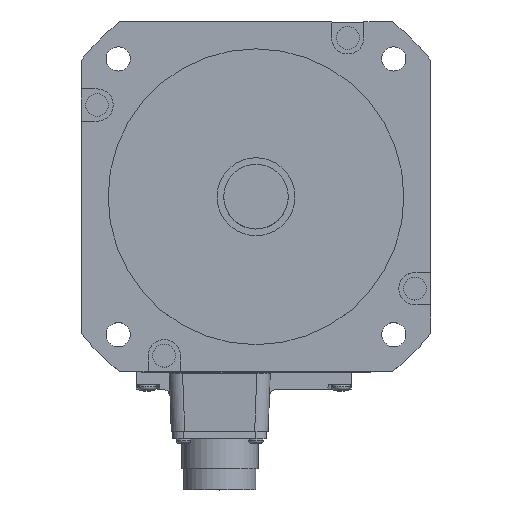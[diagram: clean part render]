
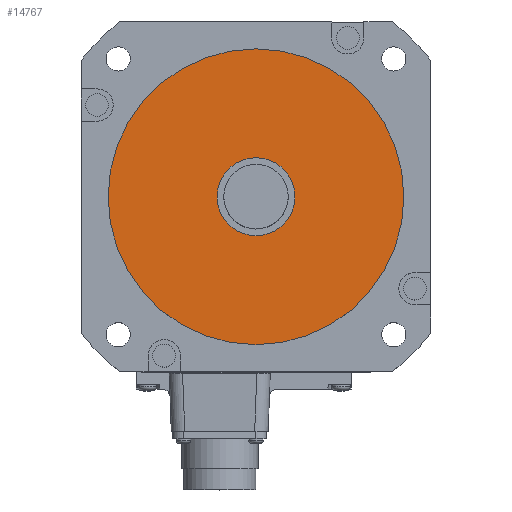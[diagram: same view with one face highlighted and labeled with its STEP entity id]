
A CAD part, top view. The second image highlights one B-rep face of the part: STEP entity #14767.
In plain terms, the highlighted planar face has unit normal (0, 0, 1).
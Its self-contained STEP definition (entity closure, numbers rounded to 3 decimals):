
#5271=CARTESIAN_POINT('',(0.,0.,3.));
#5272=DIRECTION('',(0.,0.,-1.));
#5273=DIRECTION('',(1.,0.,0.));
#5274=AXIS2_PLACEMENT_3D('',#5271,#5272,#5273);
#5276=CARTESIAN_POINT('',(0.,0.,3.));
#5277=DIRECTION('',(0.,0.,-1.));
#5278=DIRECTION('',(-1.,0.,0.));
#5279=AXIS2_PLACEMENT_3D('',#5276,#5277,#5278);
#5281=CARTESIAN_POINT('',(0.,0.,3.));
#5282=DIRECTION('',(0.,0.,1.));
#5283=DIRECTION('',(1.,0.,0.));
#5284=AXIS2_PLACEMENT_3D('',#5281,#5282,#5283);
#5286=CARTESIAN_POINT('',(0.,0.,3.));
#5287=DIRECTION('',(0.,0.,1.));
#5288=DIRECTION('',(-1.,0.,0.));
#5289=AXIS2_PLACEMENT_3D('',#5286,#5287,#5288);
#5949=CARTESIAN_POINT('',(55.,0.,3.));
#5950=VERTEX_POINT('',#5949);
#5951=CARTESIAN_POINT('',(-55.,0.,3.));
#5952=VERTEX_POINT('',#5951);
#6862=CARTESIAN_POINT('',(14.5,0.,3.));
#6863=CARTESIAN_POINT('',(-14.5,0.,3.));
#6864=VERTEX_POINT('',#6862);
#6865=VERTEX_POINT('',#6863);
#14751=CARTESIAN_POINT('',(0.,0.,3.));
#14752=DIRECTION('',(0.,0.,1.));
#14753=DIRECTION('',(1.,0.,0.));
#14754=AXIS2_PLACEMENT_3D('',#14751,#14752,#14753);
#14755=PLANE('',#14754);
#14756=ORIENTED_EDGE('',*,*,#14741,.T.);
#14758=ORIENTED_EDGE('',*,*,#14757,.T.);
#14759=EDGE_LOOP('',(#14756,#14758));
#14760=FACE_OUTER_BOUND('',#14759,.F.);
#14762=ORIENTED_EDGE('',*,*,#14761,.T.);
#14764=ORIENTED_EDGE('',*,*,#14763,.T.);
#14765=EDGE_LOOP('',(#14762,#14764));
#14766=FACE_BOUND('',#14765,.F.);
#14767=ADVANCED_FACE('',(#14760,#14766),#14755,.T.);
#5275=CIRCLE('',#5274,55.);
#5280=CIRCLE('',#5279,55.);
#5285=CIRCLE('',#5284,14.5);
#5290=CIRCLE('',#5289,14.5);
#14741=EDGE_CURVE('',#5950,#5952,#5275,.T.);
#14757=EDGE_CURVE('',#5952,#5950,#5280,.T.);
#14761=EDGE_CURVE('',#6864,#6865,#5285,.T.);
#14763=EDGE_CURVE('',#6865,#6864,#5290,.T.);
